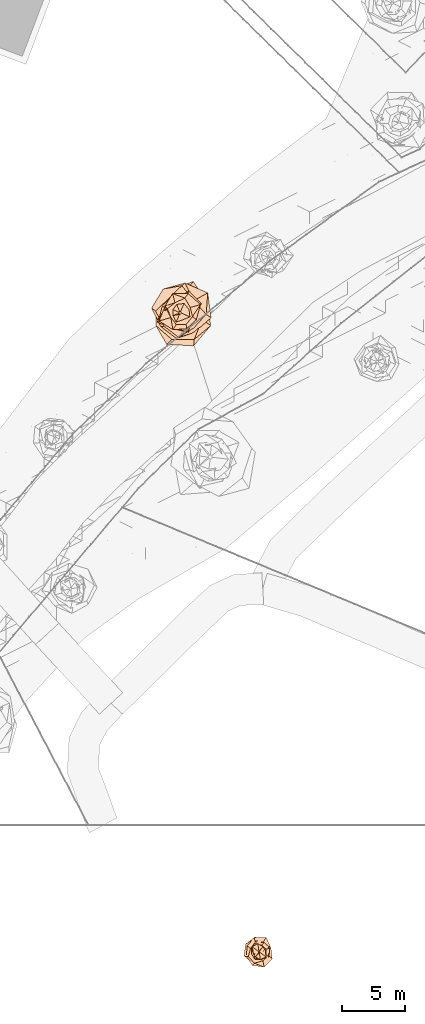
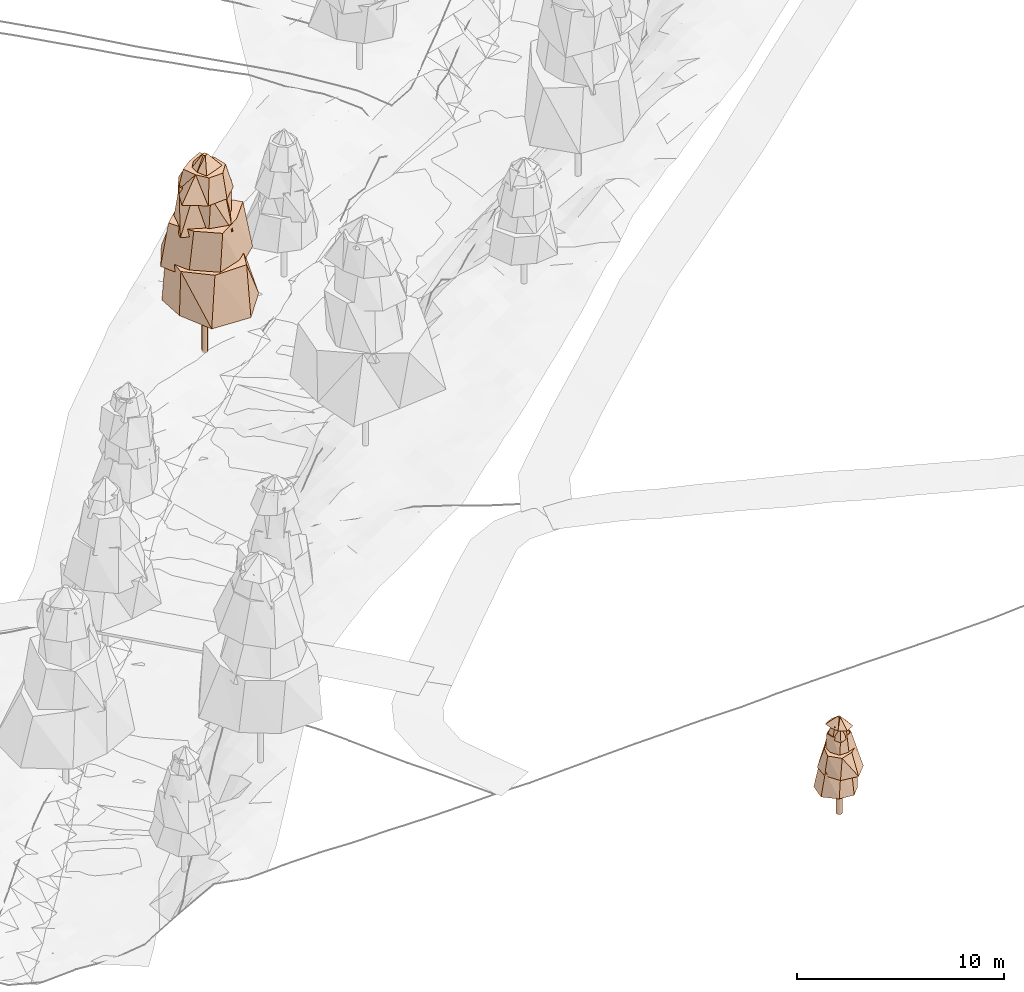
# Not in any storey, part 25 of 88: 2 geographic elements.
"""IFC4 model written with IfcOpenShell, lengths in metres."""

from ifc_helpers import new_model, si_unit, frame, origin_with_axes, place, context, subcontext, project, spatial, circle, extrude, faceted_brep, element, save


model = new_model("IFC4")

# Units and contexts
model_context = context("Model", 3, precision=1e-05, world=origin_with_axes())
body_context = subcontext(model_context, "Body", "Model", "MODEL_VIEW")
ifc_project = project(units=[si_unit("LENGTHUNIT", "METRE"), si_unit("AREAUNIT", "SQUARE_METRE"), si_unit("VOLUMEUNIT", "CUBIC_METRE"), si_unit("PLANEANGLEUNIT", "RADIAN")], contexts=[model_context])

# Sites
site_1_placement = place(None, origin_with_axes())
site_1 = spatial("IfcSite", under=ifc_project, at=site_1_placement, Name="CH907857693633", CompositionType="ELEMENT")
site_2_placement = place(None, origin_with_axes())
site_2 = spatial("IfcSite", under=site_1, at=site_2_placement, Name="Vegetation", CompositionType="ELEMENT")

# Geographic element
geographic_element_1_placement = place(None, frame((71.0000000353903, -9.99999658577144, 2.904296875), z_axis=(0.0, 0.0, 1.0), x_axis=(1.0, 0.0, 0.0)))
element("IfcGeographicElement", 1, at=geographic_element_1_placement, inside=site_2, Name="Tree_einzelbaum", ObjectType="VEGETATION", PredefinedType="USERDEFINED", context=body_context, shape_type="Brep", body=[
    extrude(circle(Radius=0.15), origin_with_axes(), (0.0, 0.0, 1.0), 1.54629772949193),
    faceted_brep([(0.779298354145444, -0.446144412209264, 1.54629772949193), (0.268742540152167, -0.988517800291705, 1.54629772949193), (-0.519704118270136, -0.907788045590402, 1.54629772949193), (-1.19956295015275, -0.326118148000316, 1.54629772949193), (-1.06988595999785, 0.612504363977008, 1.54629772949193), (-0.321308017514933, 1.18186980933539, 1.54629772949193), (0.485995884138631, 0.84890851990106, 1.54629772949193), (0.882241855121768, 0.239849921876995, 1.54629772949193), (0.841171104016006, 0.321862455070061, 2.94674719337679), (0.402504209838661, 0.901440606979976, 2.94674719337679), (-0.39285817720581, 1.02671480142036, 2.94674719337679), (-0.708741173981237, 0.316461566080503, 2.94674719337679), (-0.988475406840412, -0.378226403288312, 2.94674719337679), (-0.316463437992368, -0.708745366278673, 2.94674719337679), (0.270450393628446, -0.706808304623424, 2.94674719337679), (0.807988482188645, -0.36077669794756, 2.94674719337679), (0.882241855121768, 0.239849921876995, 1.54629772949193), (0.485995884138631, 0.84890851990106, 1.54629772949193), (0.402504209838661, 0.901440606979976, 2.94674719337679), (0.841171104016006, 0.321862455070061, 2.94674719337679), (0.485995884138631, 0.84890851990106, 1.54629772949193), (-0.321308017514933, 1.18186980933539, 1.54629772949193), (-0.39285817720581, 1.02671480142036, 2.94674719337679), (0.402504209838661, 0.901440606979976, 2.94674719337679), (-0.321308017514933, 1.18186980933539, 1.54629772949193), (-1.06988595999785, 0.612504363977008, 1.54629772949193), (-0.708741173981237, 0.316461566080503, 2.94674719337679), (-0.39285817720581, 1.02671480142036, 2.94674719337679), (-1.06988595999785, 0.612504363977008, 1.54629772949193), (-1.19956295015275, -0.326118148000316, 1.54629772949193), (-0.988475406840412, -0.378226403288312, 2.94674719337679), (-0.708741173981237, 0.316461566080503, 2.94674719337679), (-1.19956295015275, -0.326118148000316, 1.54629772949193), (-0.519704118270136, -0.907788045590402, 1.54629772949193), (-0.316463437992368, -0.708745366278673, 2.94674719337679), (-0.988475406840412, -0.378226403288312, 2.94674719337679), (-0.519704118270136, -0.907788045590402, 1.54629772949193), (0.268742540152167, -0.988517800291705, 1.54629772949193), (0.270450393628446, -0.706808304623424, 2.94674719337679), (-0.316463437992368, -0.708745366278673, 2.94674719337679), (0.268742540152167, -0.988517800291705, 1.54629772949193), (0.779298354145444, -0.446144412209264, 1.54629772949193), (0.807988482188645, -0.36077669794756, 2.94674719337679), (0.270450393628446, -0.706808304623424, 2.94674719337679), (0.779298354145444, -0.446144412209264, 1.54629772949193), (0.882241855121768, 0.239849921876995, 1.54629772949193), (0.841171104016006, 0.321862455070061, 2.94674719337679), (0.807988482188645, -0.36077669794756, 2.94674719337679)], [[[0, 1, 2, 3, 4, 5, 6, 7]], [[8, 9, 10, 11, 12, 13, 14, 15]], [[16, 17, 18, 19]], [[20, 21, 22, 23]], [[24, 25, 26, 27]], [[28, 29, 30, 31]], [[32, 33, 34, 35]], [[36, 37, 38, 39]], [[40, 41, 42, 43]], [[44, 45, 46, 47]]]),
    faceted_brep([(1.04620403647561, -0.533207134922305, 2.73667977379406), (0.392025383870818, -1.20696493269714, 2.73667977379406), (-0.543770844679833, -1.06693105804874, 2.73667977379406), (-1.00455762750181, -0.326282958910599, 2.73667977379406), (-0.949227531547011, 0.483782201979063, 2.73667977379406), (-0.367482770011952, 1.13140330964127, 2.73667977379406), (0.576687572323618, 1.13151686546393, 2.73667977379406), (0.936415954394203, 0.304150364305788, 2.73667977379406), (0.745171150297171, 0.327472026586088, 3.87777215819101), (0.307350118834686, 0.789269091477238, 3.87777215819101), (-0.327045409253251, 0.744200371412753, 3.87777215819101), (-0.676001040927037, 0.263242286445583, 3.87777215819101), (-0.860639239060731, -0.378215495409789, 3.87777215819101), (-0.350401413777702, -0.899823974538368, 3.87777215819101), (0.302747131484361, -0.688909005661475, 3.87777215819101), (0.766424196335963, -0.298454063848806, 3.87777215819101), (0.936415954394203, 0.304150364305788, 2.73667977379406), (0.576687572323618, 1.13151686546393, 2.73667977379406), (0.307350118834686, 0.789269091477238, 3.87777215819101), (0.745171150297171, 0.327472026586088, 3.87777215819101), (0.576687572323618, 1.13151686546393, 2.73667977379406), (-0.367482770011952, 1.13140330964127, 2.73667977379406), (-0.327045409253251, 0.744200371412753, 3.87777215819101), (0.307350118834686, 0.789269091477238, 3.87777215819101), (-0.367482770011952, 1.13140330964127, 2.73667977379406), (-0.949227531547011, 0.483782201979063, 2.73667977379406), (-0.676001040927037, 0.263242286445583, 3.87777215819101), (-0.327045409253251, 0.744200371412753, 3.87777215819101), (-0.949227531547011, 0.483782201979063, 2.73667977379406), (-1.00455762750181, -0.326282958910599, 2.73667977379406), (-0.860639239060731, -0.378215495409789, 3.87777215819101), (-0.676001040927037, 0.263242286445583, 3.87777215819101), (-1.00455762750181, -0.326282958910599, 2.73667977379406), (-0.543770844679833, -1.06693105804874, 2.73667977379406), (-0.350401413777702, -0.899823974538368, 3.87777215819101), (-0.860639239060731, -0.378215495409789, 3.87777215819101), (-0.543770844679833, -1.06693105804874, 2.73667977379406), (0.392025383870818, -1.20696493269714, 2.73667977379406), (0.302747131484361, -0.688909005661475, 3.87777215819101), (-0.350401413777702, -0.899823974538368, 3.87777215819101), (0.392025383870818, -1.20696493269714, 2.73667977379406), (1.04620403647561, -0.533207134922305, 2.73667977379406), (0.766424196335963, -0.298454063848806, 3.87777215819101), (0.302747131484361, -0.688909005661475, 3.87777215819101), (1.04620403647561, -0.533207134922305, 2.73667977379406), (0.936415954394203, 0.304150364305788, 2.73667977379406), (0.745171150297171, 0.327472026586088, 3.87777215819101), (0.766424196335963, -0.298454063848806, 3.87777215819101)], [[[0, 1, 2, 3, 4, 5, 6, 7]], [[8, 9, 10, 11, 12, 13, 14, 15]], [[16, 17, 18, 19]], [[20, 21, 22, 23]], [[24, 25, 26, 27]], [[28, 29, 30, 31]], [[32, 33, 34, 35]], [[36, 37, 38, 39]], [[40, 41, 42, 43]], [[44, 45, 46, 47]]]),
    faceted_brep([(0.788649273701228, -0.409367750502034, 3.70660830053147), (0.200168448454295, -0.632261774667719, 3.70660830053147), (-0.330614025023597, -0.636929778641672, 3.70660830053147), (-0.61036368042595, -0.193235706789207, 3.70660830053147), (-0.586348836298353, 0.304358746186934, 3.70660830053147), (-0.278143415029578, 0.878557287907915, 3.70660830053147), (0.397670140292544, 0.766113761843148, 3.70660830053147), (0.820351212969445, 0.259715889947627, 3.70660830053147), (0.539809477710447, 0.23244408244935, 4.7414911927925), (0.210006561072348, 0.527640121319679, 4.7414911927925), (-0.224475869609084, 0.521304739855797, 4.7414911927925), (-0.566646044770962, 0.225531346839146, 4.7414911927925), (-0.449385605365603, -0.193507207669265, 4.7414911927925), (-0.170197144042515, -0.427619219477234, 4.7414911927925), (0.18691360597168, -0.434073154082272, 4.7414911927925), (0.538595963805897, -0.214367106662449, 4.7414911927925), (0.820351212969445, 0.259715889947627, 3.70660830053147), (0.397670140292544, 0.766113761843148, 3.70660830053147), (0.210006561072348, 0.527640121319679, 4.7414911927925), (0.539809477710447, 0.23244408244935, 4.7414911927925), (0.397670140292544, 0.766113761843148, 3.70660830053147), (-0.278143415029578, 0.878557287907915, 3.70660830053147), (-0.224475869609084, 0.521304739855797, 4.7414911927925), (0.210006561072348, 0.527640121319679, 4.7414911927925), (-0.278143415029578, 0.878557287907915, 3.70660830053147), (-0.586348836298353, 0.304358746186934, 3.70660830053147), (-0.566646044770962, 0.225531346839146, 4.7414911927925), (-0.224475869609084, 0.521304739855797, 4.7414911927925), (-0.586348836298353, 0.304358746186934, 3.70660830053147), (-0.61036368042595, -0.193235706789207, 3.70660830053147), (-0.449385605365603, -0.193507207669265, 4.7414911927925), (-0.566646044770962, 0.225531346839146, 4.7414911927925), (-0.61036368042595, -0.193235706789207, 3.70660830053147), (-0.330614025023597, -0.636929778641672, 3.70660830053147), (-0.170197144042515, -0.427619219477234, 4.7414911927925), (-0.449385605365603, -0.193507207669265, 4.7414911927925), (-0.330614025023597, -0.636929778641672, 3.70660830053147), (0.200168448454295, -0.632261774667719, 3.70660830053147), (0.18691360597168, -0.434073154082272, 4.7414911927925), (-0.170197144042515, -0.427619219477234, 4.7414911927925), (0.200168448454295, -0.632261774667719, 3.70660830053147), (0.788649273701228, -0.409367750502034, 3.70660830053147), (0.538595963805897, -0.214367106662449, 4.7414911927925), (0.18691360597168, -0.434073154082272, 4.7414911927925), (0.788649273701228, -0.409367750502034, 3.70660830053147), (0.820351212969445, 0.259715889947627, 3.70660830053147), (0.539809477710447, 0.23244408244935, 4.7414911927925), (0.538595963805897, -0.214367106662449, 4.7414911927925)], [[[0, 1, 2, 3, 4, 5, 6, 7]], [[8, 9, 10, 11, 12, 13, 14, 15]], [[16, 17, 18, 19]], [[20, 21, 22, 23]], [[24, 25, 26, 27]], [[28, 29, 30, 31]], [[32, 33, 34, 35]], [[36, 37, 38, 39]], [[40, 41, 42, 43]], [[44, 45, 46, 47]]]),
    faceted_brep([(0.51103506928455, -0.22201604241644, 4.58625875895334), (0.175763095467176, -0.445795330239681, 4.58625875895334), (-0.269797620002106, -0.62101839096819, 4.58625875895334), (-0.466772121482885, -0.184033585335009, 4.58625875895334), (-0.54473524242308, 0.236656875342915, 4.58625875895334), (-0.198011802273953, 0.502225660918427, 4.58625875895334), (0.191561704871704, 0.440935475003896, 4.58625875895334), (0.495542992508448, 0.19537703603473, 4.58625875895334), (0.345851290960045, 0.17810478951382, 5.28657840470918), (0.121201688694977, 0.378573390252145, 5.28657840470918), (-0.166293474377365, 0.322915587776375, 5.28657840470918), (-0.345318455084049, 0.110554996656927, 5.28657840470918), (-0.343988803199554, -0.177145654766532, 5.28657840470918), (-0.10526527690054, -0.328796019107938, 5.28657840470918), (0.193400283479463, -0.375552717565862, 5.28657840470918), (0.366469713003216, -0.117326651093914, 5.28657840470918), (0.495542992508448, 0.19537703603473, 4.58625875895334), (0.191561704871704, 0.440935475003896, 4.58625875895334), (0.121201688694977, 0.378573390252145, 5.28657840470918), (0.345851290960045, 0.17810478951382, 5.28657840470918), (0.191561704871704, 0.440935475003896, 4.58625875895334), (-0.198011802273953, 0.502225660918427, 4.58625875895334), (-0.166293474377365, 0.322915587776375, 5.28657840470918), (0.121201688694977, 0.378573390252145, 5.28657840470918), (-0.198011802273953, 0.502225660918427, 4.58625875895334), (-0.54473524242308, 0.236656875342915, 4.58625875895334), (-0.345318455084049, 0.110554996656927, 5.28657840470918), (-0.166293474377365, 0.322915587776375, 5.28657840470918), (-0.54473524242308, 0.236656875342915, 4.58625875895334), (-0.466772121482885, -0.184033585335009, 4.58625875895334), (-0.343988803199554, -0.177145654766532, 5.28657840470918), (-0.345318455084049, 0.110554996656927, 5.28657840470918), (-0.466772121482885, -0.184033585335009, 4.58625875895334), (-0.269797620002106, -0.62101839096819, 4.58625875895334), (-0.10526527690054, -0.328796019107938, 5.28657840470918), (-0.343988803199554, -0.177145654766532, 5.28657840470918), (-0.269797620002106, -0.62101839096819, 4.58625875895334), (0.175763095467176, -0.445795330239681, 4.58625875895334), (0.193400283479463, -0.375552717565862, 5.28657840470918), (-0.10526527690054, -0.328796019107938, 5.28657840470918), (0.175763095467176, -0.445795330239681, 4.58625875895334), (0.51103506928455, -0.22201604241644, 4.58625875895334), (0.366469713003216, -0.117326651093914, 5.28657840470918), (0.193400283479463, -0.375552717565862, 5.28657840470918), (0.51103506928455, -0.22201604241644, 4.58625875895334), (0.495542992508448, 0.19537703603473, 4.58625875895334), (0.345851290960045, 0.17810478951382, 5.28657840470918), (0.366469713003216, -0.117326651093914, 5.28657840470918)], [[[0, 1, 2, 3, 4, 5, 6, 7]], [[8, 9, 10, 11, 12, 13, 14, 15]], [[16, 17, 18, 19]], [[20, 21, 22, 23]], [[24, 25, 26, 27]], [[28, 29, 30, 31]], [[32, 33, 34, 35]], [[36, 37, 38, 39]], [[40, 41, 42, 43]], [[44, 45, 46, 47]]]),
    faceted_brep([(0.542568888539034, -0.399050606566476, 5.1815304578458), (0.0941578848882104, -0.617767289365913, 5.1815304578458), (-0.293676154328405, -0.39929658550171, 5.1815304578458), (-0.460175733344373, -0.0701383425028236, 5.1815304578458), (-0.544754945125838, 0.400658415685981, 5.1815304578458), (-0.0994426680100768, 0.652440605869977, 5.1815304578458), (0.299411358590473, 0.407094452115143, 5.1815304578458), (0.498568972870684, 0.075990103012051, 5.1815304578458), (0.0581669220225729, 0.014930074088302, 5.68803418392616), (0.0367843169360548, 0.0621882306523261, 5.68803418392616), (-0.0167704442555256, 0.0653369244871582, 5.68803418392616), (-0.0656461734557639, 0.0388296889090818, 5.68803418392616), (-0.0587513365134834, -0.0150800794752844, 5.68803418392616), (-0.0366806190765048, -0.0620129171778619, 5.68803418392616), (0.0158252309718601, -0.0616544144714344, 5.68803418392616), (0.0628829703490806, -0.0371952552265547, 5.68803418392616), (0.498568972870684, 0.075990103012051, 5.1815304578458), (0.299411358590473, 0.407094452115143, 5.1815304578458), (0.0367843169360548, 0.0621882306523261, 5.68803418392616), (0.0581669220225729, 0.014930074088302, 5.68803418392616), (0.299411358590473, 0.407094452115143, 5.1815304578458), (-0.0994426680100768, 0.652440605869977, 5.1815304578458), (-0.0167704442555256, 0.0653369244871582, 5.68803418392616), (0.0367843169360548, 0.0621882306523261, 5.68803418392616), (-0.0994426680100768, 0.652440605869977, 5.1815304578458), (-0.544754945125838, 0.400658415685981, 5.1815304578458), (-0.0656461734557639, 0.0388296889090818, 5.68803418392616), (-0.0167704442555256, 0.0653369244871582, 5.68803418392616), (-0.544754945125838, 0.400658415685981, 5.1815304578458), (-0.460175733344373, -0.0701383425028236, 5.1815304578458), (-0.0587513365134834, -0.0150800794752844, 5.68803418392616), (-0.0656461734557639, 0.0388296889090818, 5.68803418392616), (-0.460175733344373, -0.0701383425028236, 5.1815304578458), (-0.293676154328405, -0.39929658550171, 5.1815304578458), (-0.0366806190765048, -0.0620129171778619, 5.68803418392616), (-0.0587513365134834, -0.0150800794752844, 5.68803418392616), (-0.293676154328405, -0.39929658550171, 5.1815304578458), (0.0941578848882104, -0.617767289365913, 5.1815304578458), (0.0158252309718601, -0.0616544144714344, 5.68803418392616), (-0.0366806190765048, -0.0620129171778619, 5.68803418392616), (0.0941578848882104, -0.617767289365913, 5.1815304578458), (0.542568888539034, -0.399050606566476, 5.1815304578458), (0.0628829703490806, -0.0371952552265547, 5.68803418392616), (0.0158252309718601, -0.0616544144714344, 5.68803418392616), (0.542568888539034, -0.399050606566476, 5.1815304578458), (0.498568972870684, 0.075990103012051, 5.1815304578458), (0.0581669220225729, 0.014930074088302, 5.68803418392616), (0.0628829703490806, -0.0371952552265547, 5.68803418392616)], [[[0, 1, 2, 3, 4, 5, 6, 7]], [[8, 9, 10, 11, 12, 13, 14, 15]], [[16, 17, 18, 19]], [[20, 21, 22, 23]], [[24, 25, 26, 27]], [[28, 29, 30, 31]], [[32, 33, 34, 35]], [[36, 37, 38, 39]], [[40, 41, 42, 43]], [[44, 45, 46, 47]]]),
])

# Site
site_3_placement = place(None, origin_with_axes())
site_3 = spatial("IfcSite", under=site_1, at=site_3_placement, Name="Simulated_forest", CompositionType="ELEMENT")

# Geographic element
geographic_element_2_placement = place(None, frame((64.7557108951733, 40.5261203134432, 1.69305419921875), z_axis=(0.0, 0.0, 1.0), x_axis=(1.0, 0.0, 0.0)))
element("IfcGeographicElement", 2, at=geographic_element_2_placement, inside=site_3, Name="Tree_SIMULATED_WOODED_AREA", ObjectType="VEGETATION", PredefinedType="USERDEFINED", context=body_context, shape_type="Brep", body=[
    extrude(circle(Radius=0.15), origin_with_axes(), (0.0, 0.0, 1.0), 3.20301478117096),
    faceted_brep([(2.42313578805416, -1.02293896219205, 3.20301478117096), (1.06560042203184, -2.62258751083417, 3.20301478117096), (-1.05761714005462, -2.50528138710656, 3.20301478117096), (-1.84752711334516, -0.7506806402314, 3.20301478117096), (-1.92148624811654, 0.811165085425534, 3.20301478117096), (-0.731132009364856, 1.79941527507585, 3.20301478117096), (1.04326709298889, 2.4712890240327, 3.20301478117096), (2.12060666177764, 0.861637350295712, 3.20301478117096), (1.65963738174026, 0.876593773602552, 5.99440827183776), (0.591058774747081, 1.91440382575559, 5.99440827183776), (-0.833742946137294, 1.5785087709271, 5.99440827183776), (-1.85441650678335, 0.572538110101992, 5.99440827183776), (-1.92301761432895, -1.0157069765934, 5.99440827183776), (-0.653682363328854, -2.1172378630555, 5.99440827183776), (1.11602499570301, -2.1129477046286, 5.99440827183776), (1.74160491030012, -0.537708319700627, 5.99440827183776), (2.12060666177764, 0.861637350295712, 3.20301478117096), (1.04326709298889, 2.4712890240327, 3.20301478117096), (0.591058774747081, 1.91440382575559, 5.99440827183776), (1.65963738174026, 0.876593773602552, 5.99440827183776), (1.04326709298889, 2.4712890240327, 3.20301478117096), (-0.731132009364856, 1.79941527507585, 3.20301478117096), (-0.833742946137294, 1.5785087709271, 5.99440827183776), (0.591058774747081, 1.91440382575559, 5.99440827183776), (-0.731132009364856, 1.79941527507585, 3.20301478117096), (-1.92148624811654, 0.811165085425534, 3.20301478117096), (-1.85441650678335, 0.572538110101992, 5.99440827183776), (-0.833742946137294, 1.5785087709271, 5.99440827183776), (-1.92148624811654, 0.811165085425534, 3.20301478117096), (-1.84752711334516, -0.7506806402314, 3.20301478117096), (-1.92301761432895, -1.0157069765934, 5.99440827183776), (-1.85441650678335, 0.572538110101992, 5.99440827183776), (-1.84752711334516, -0.7506806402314, 3.20301478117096), (-1.05761714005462, -2.50528138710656, 3.20301478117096), (-0.653682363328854, -2.1172378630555, 5.99440827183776), (-1.92301761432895, -1.0157069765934, 5.99440827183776), (-1.05761714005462, -2.50528138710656, 3.20301478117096), (1.06560042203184, -2.62258751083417, 3.20301478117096), (1.11602499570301, -2.1129477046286, 5.99440827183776), (-0.653682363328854, -2.1172378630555, 5.99440827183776), (1.06560042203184, -2.62258751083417, 3.20301478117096), (2.42313578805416, -1.02293896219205, 3.20301478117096), (1.74160491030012, -0.537708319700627, 5.99440827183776), (1.11602499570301, -2.1129477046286, 5.99440827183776), (2.42313578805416, -1.02293896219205, 3.20301478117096), (2.12060666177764, 0.861637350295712, 3.20301478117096), (1.65963738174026, 0.876593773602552, 5.99440827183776), (1.74160491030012, -0.537708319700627, 5.99440827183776)], [[[0, 1, 2, 3, 4, 5, 6, 7]], [[8, 9, 10, 11, 12, 13, 14, 15]], [[16, 17, 18, 19]], [[20, 21, 22, 23]], [[24, 25, 26, 27]], [[28, 29, 30, 31]], [[32, 33, 34, 35]], [[36, 37, 38, 39]], [[40, 41, 42, 43]], [[44, 45, 46, 47]]]),
    faceted_brep([(2.44108187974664, -0.401753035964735, 5.57569924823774), (1.12594657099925, -1.56957532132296, 5.57569924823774), (-0.336874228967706, -2.04687333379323, 5.57569924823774), (-1.55351827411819, -1.11442792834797, 5.57569924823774), (-2.25234225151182, 0.370690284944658, 5.57569924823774), (-1.34250953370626, 1.87146520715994, 5.57569924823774), (0.386104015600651, 2.34599724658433, 5.57569924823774), (2.18400566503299, 1.566712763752, 5.57569924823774), (1.08334550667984, 0.954547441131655, 8.1783668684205), (0.134843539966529, 2.13354678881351, 8.1783668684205), (-0.946383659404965, 1.07408017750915, 8.1783668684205), (-1.95344415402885, 0.123460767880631, 8.1783668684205), (-1.242446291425, -1.09473286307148, 8.1783668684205), (-0.123130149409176, -1.94821298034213, 8.1783668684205), (1.06999148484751, -1.2143665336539, 8.1783668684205), (2.05651079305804, -0.129974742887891, 8.1783668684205), (2.18400566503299, 1.566712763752, 5.57569924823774), (0.386104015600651, 2.34599724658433, 5.57569924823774), (0.134843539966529, 2.13354678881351, 8.1783668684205), (1.08334550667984, 0.954547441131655, 8.1783668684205), (0.386104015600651, 2.34599724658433, 5.57569924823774), (-1.34250953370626, 1.87146520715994, 5.57569924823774), (-0.946383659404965, 1.07408017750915, 8.1783668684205), (0.134843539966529, 2.13354678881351, 8.1783668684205), (-1.34250953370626, 1.87146520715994, 5.57569924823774), (-2.25234225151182, 0.370690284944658, 5.57569924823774), (-1.95344415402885, 0.123460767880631, 8.1783668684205), (-0.946383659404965, 1.07408017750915, 8.1783668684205), (-2.25234225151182, 0.370690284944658, 5.57569924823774), (-1.55351827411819, -1.11442792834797, 5.57569924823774), (-1.242446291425, -1.09473286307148, 8.1783668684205), (-1.95344415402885, 0.123460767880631, 8.1783668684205), (-1.55351827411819, -1.11442792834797, 5.57569924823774), (-0.336874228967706, -2.04687333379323, 5.57569924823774), (-0.123130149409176, -1.94821298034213, 8.1783668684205), (-1.242446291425, -1.09473286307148, 8.1783668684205), (-0.336874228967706, -2.04687333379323, 5.57569924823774), (1.12594657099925, -1.56957532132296, 5.57569924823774), (1.06999148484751, -1.2143665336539, 8.1783668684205), (-0.123130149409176, -1.94821298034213, 8.1783668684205), (1.12594657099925, -1.56957532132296, 5.57569924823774), (2.44108187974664, -0.401753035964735, 5.57569924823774), (2.05651079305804, -0.129974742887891, 8.1783668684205), (1.06999148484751, -1.2143665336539, 8.1783668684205), (2.44108187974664, -0.401753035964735, 5.57569924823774), (2.18400566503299, 1.566712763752, 5.57569924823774), (1.08334550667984, 0.954547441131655, 8.1783668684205), (2.05651079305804, -0.129974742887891, 8.1783668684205)], [[[0, 1, 2, 3, 4, 5, 6, 7]], [[8, 9, 10, 11, 12, 13, 14, 15]], [[16, 17, 18, 19]], [[20, 21, 22, 23]], [[24, 25, 26, 27]], [[28, 29, 30, 31]], [[32, 33, 34, 35]], [[36, 37, 38, 39]], [[40, 41, 42, 43]], [[44, 45, 46, 47]]]),
    faceted_brep([(1.20979773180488, -0.495689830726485, 7.78796672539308), (0.660913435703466, -1.57844443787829, 7.78796672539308), (-0.533517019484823, -1.30212007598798, 7.78796672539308), (-1.7950491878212, -0.751608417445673, 7.78796672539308), (-1.44157440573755, 0.590655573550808, 7.78796672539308), (-0.5888059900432, 1.40623187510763, 7.78796672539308), (0.702620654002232, 1.71484025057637, 7.78796672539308), (1.68063784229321, 0.703703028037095, 7.78796672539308), (0.919197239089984, 0.498029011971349, 9.90766717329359), (0.320542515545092, 1.07862188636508, 9.90766717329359), (-0.575740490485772, 1.06262698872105, 9.90766717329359), (-1.22429990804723, 0.363834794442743, 9.90766717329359), (-0.888314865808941, -0.481296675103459, 9.90766717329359), (-0.355661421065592, -1.19679660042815, 9.90766717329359), (0.532045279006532, -0.981980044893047, 9.90766717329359), (1.26370490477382, -0.375545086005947, 9.90766717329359), (1.68063784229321, 0.703703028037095, 7.78796672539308), (0.702620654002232, 1.71484025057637, 7.78796672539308), (0.320542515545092, 1.07862188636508, 9.90766717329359), (0.919197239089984, 0.498029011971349, 9.90766717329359), (0.702620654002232, 1.71484025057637, 7.78796672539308), (-0.5888059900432, 1.40623187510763, 7.78796672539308), (-0.575740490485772, 1.06262698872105, 9.90766717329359), (0.320542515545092, 1.07862188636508, 9.90766717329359), (-0.5888059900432, 1.40623187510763, 7.78796672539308), (-1.44157440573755, 0.590655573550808, 7.78796672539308), (-1.22429990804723, 0.363834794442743, 9.90766717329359), (-0.575740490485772, 1.06262698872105, 9.90766717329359), (-1.44157440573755, 0.590655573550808, 7.78796672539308), (-1.7950491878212, -0.751608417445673, 7.78796672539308), (-0.888314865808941, -0.481296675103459, 9.90766717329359), (-1.22429990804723, 0.363834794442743, 9.90766717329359), (-1.7950491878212, -0.751608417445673, 7.78796672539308), (-0.533517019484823, -1.30212007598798, 7.78796672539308), (-0.355661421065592, -1.19679660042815, 9.90766717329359), (-0.888314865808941, -0.481296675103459, 9.90766717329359), (-0.533517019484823, -1.30212007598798, 7.78796672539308), (0.660913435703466, -1.57844443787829, 7.78796672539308), (0.532045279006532, -0.981980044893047, 9.90766717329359), (-0.355661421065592, -1.19679660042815, 9.90766717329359), (0.660913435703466, -1.57844443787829, 7.78796672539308), (1.20979773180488, -0.495689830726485, 7.78796672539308), (1.26370490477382, -0.375545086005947, 9.90766717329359), (0.532045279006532, -0.981980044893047, 9.90766717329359), (1.20979773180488, -0.495689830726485, 7.78796672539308), (1.68063784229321, 0.703703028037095, 7.78796672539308), (0.919197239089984, 0.498029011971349, 9.90766717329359), (1.26370490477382, -0.375545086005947, 9.90766717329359)], [[[0, 1, 2, 3, 4, 5, 6, 7]], [[8, 9, 10, 11, 12, 13, 14, 15]], [[16, 17, 18, 19]], [[20, 21, 22, 23]], [[24, 25, 26, 27]], [[28, 29, 30, 31]], [[32, 33, 34, 35]], [[36, 37, 38, 39]], [[40, 41, 42, 43]], [[44, 45, 46, 47]]]),
    faceted_brep([(1.27972679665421, -0.553248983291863, 9.58971210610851), (0.505589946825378, -1.27565372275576, 9.58971210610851), (-0.578071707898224, -1.33714453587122, 9.58971210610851), (-1.65829077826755, -0.657243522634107, 9.58971210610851), (-1.19990733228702, 0.518741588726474, 9.58971210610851), (-0.598041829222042, 1.50891901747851, 9.58971210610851), (0.650826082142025, 1.50543354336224, 9.58971210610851), (1.60796528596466, 0.637297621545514, 9.58971210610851), (0.802323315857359, 0.414994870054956, 10.9002366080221), (0.368634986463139, 1.15856730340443, 10.9002366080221), (-0.403947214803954, 0.780964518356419, 10.9002366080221), (-1.01374635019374, 0.322555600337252, 10.9002366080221), (-0.732408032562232, -0.378831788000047, 10.9002366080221), (-0.299963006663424, -0.942741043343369, 10.9002366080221), (0.476459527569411, -0.921154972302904, 10.9002366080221), (0.977889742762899, -0.311146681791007, 10.9002366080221), (1.60796528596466, 0.637297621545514, 9.58971210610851), (0.650826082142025, 1.50543354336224, 9.58971210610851), (0.368634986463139, 1.15856730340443, 10.9002366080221), (0.802323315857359, 0.414994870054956, 10.9002366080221), (0.650826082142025, 1.50543354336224, 9.58971210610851), (-0.598041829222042, 1.50891901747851, 9.58971210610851), (-0.403947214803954, 0.780964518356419, 10.9002366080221), (0.368634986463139, 1.15856730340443, 10.9002366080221), (-0.598041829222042, 1.50891901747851, 9.58971210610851), (-1.19990733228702, 0.518741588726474, 9.58971210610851), (-1.01374635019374, 0.322555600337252, 10.9002366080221), (-0.403947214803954, 0.780964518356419, 10.9002366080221), (-1.19990733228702, 0.518741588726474, 9.58971210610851), (-1.65829077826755, -0.657243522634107, 9.58971210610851), (-0.732408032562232, -0.378831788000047, 10.9002366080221), (-1.01374635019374, 0.322555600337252, 10.9002366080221), (-1.65829077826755, -0.657243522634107, 9.58971210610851), (-0.578071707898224, -1.33714453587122, 9.58971210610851), (-0.299963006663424, -0.942741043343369, 10.9002366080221), (-0.732408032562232, -0.378831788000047, 10.9002366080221), (-0.578071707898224, -1.33714453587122, 9.58971210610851), (0.505589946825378, -1.27565372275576, 9.58971210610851), (0.476459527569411, -0.921154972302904, 10.9002366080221), (-0.299963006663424, -0.942741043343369, 10.9002366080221), (0.505589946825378, -1.27565372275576, 9.58971210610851), (1.27972679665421, -0.553248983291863, 9.58971210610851), (0.977889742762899, -0.311146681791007, 10.9002366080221), (0.476459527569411, -0.921154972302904, 10.9002366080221), (1.27972679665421, -0.553248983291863, 9.58971210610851), (1.60796528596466, 0.637297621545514, 9.58971210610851), (0.802323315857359, 0.414994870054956, 10.9002366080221), (0.977889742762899, -0.311146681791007, 10.9002366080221)], [[[0, 1, 2, 3, 4, 5, 6, 7]], [[8, 9, 10, 11, 12, 13, 14, 15]], [[16, 17, 18, 19]], [[20, 21, 22, 23]], [[24, 25, 26, 27]], [[28, 29, 30, 31]], [[32, 33, 34, 35]], [[36, 37, 38, 39]], [[40, 41, 42, 43]], [[44, 45, 46, 47]]]),
    faceted_brep([(0.950566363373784, -0.413466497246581, 10.703657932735), (0.267462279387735, -0.679254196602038, 10.703657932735), (-0.395408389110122, -0.909050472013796, 10.703657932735), (-0.690895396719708, -0.272046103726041, 10.703657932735), (-0.692777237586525, 0.301336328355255, 10.703657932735), (-0.316636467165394, 0.804138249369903, 10.703657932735), (0.38708626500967, 0.889917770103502, 10.703657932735), (0.85201592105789, 0.335488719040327, 10.703657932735), (0.0837075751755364, 0.043060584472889, 11.6431827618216), (0.0335529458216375, 0.10464354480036, 11.6431827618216), (-0.043369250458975, 0.0843076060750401, 11.6431827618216), (-0.103100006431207, 0.0330580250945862, 11.6431827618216), (-0.116884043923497, -0.0601271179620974, 11.6431827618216), (-0.038557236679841, -0.120250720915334, 11.6431827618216), (0.0482367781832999, -0.093769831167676, 11.6431827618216), (0.121973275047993, -0.0391095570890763, 11.6431827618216), (0.85201592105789, 0.335488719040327, 10.703657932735), (0.38708626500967, 0.889917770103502, 10.703657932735), (0.0335529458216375, 0.10464354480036, 11.6431827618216), (0.0837075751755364, 0.043060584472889, 11.6431827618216), (0.38708626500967, 0.889917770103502, 10.703657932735), (-0.316636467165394, 0.804138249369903, 10.703657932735), (-0.043369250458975, 0.0843076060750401, 11.6431827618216), (0.0335529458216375, 0.10464354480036, 11.6431827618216), (-0.316636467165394, 0.804138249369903, 10.703657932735), (-0.692777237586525, 0.301336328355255, 10.703657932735), (-0.103100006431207, 0.0330580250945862, 11.6431827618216), (-0.043369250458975, 0.0843076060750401, 11.6431827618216), (-0.692777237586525, 0.301336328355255, 10.703657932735), (-0.690895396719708, -0.272046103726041, 10.703657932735), (-0.116884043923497, -0.0601271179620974, 11.6431827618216), (-0.103100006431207, 0.0330580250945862, 11.6431827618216), (-0.690895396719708, -0.272046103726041, 10.703657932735), (-0.395408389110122, -0.909050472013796, 10.703657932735), (-0.038557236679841, -0.120250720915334, 11.6431827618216), (-0.116884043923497, -0.0601271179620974, 11.6431827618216), (-0.395408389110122, -0.909050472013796, 10.703657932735), (0.267462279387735, -0.679254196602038, 10.703657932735), (0.0482367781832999, -0.093769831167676, 11.6431827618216), (-0.038557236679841, -0.120250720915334, 11.6431827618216), (0.267462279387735, -0.679254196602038, 10.703657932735), (0.950566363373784, -0.413466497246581, 10.703657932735), (0.121973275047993, -0.0391095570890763, 11.6431827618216), (0.0482367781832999, -0.093769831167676, 11.6431827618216), (0.950566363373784, -0.413466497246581, 10.703657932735), (0.85201592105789, 0.335488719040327, 10.703657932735), (0.0837075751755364, 0.043060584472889, 11.6431827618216), (0.121973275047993, -0.0391095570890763, 11.6431827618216)], [[[0, 1, 2, 3, 4, 5, 6, 7]], [[8, 9, 10, 11, 12, 13, 14, 15]], [[16, 17, 18, 19]], [[20, 21, 22, 23]], [[24, 25, 26, 27]], [[28, 29, 30, 31]], [[32, 33, 34, 35]], [[36, 37, 38, 39]], [[40, 41, 42, 43]], [[44, 45, 46, 47]]]),
])

save(model, "model.ifc")
